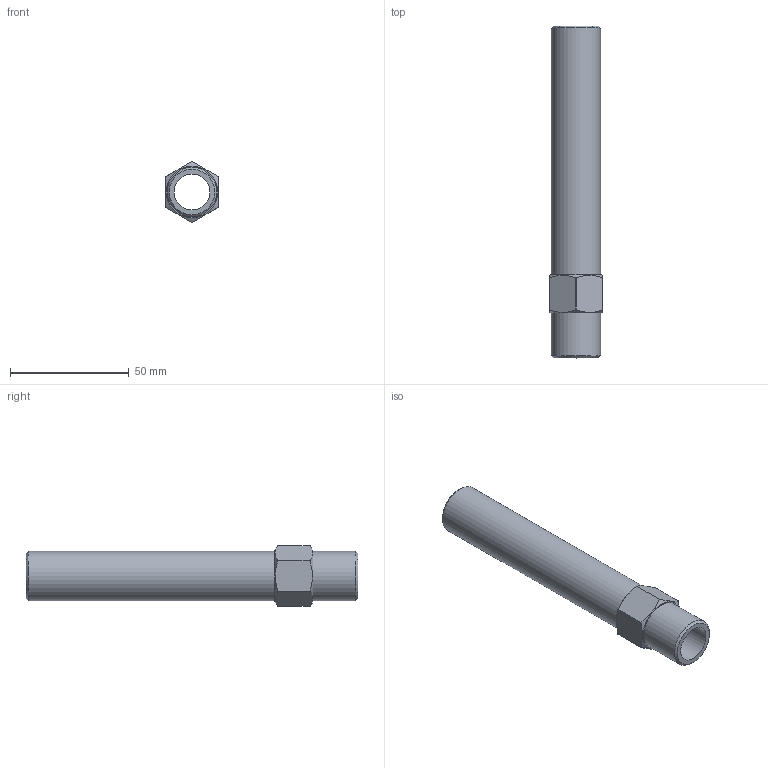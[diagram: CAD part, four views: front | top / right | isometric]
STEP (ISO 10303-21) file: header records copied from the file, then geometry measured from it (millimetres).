
FILE_DESCRIPTION(/* description */ (''),/* implementation_level */ '2;1');
FILE_NAME(/* name */ 'C:/Users/drich/Desktop/APN12-5-1_2 v1.step',/* time_stamp */ '2019-12-27T17:41:44-06:00',/* author */ (''),/* organization */ (''),/* preprocessor_version */ 'ST-DEVELOPER v18',/* originating_system */ 'Autodesk Translation Framework v8.12.0.6',/* authorisation */ '');
FILE_SCHEMA (('AUTOMOTIVE_DESIGN { 1 0 10303 214 3 1 1 }'));
Length unit declared in the file: inch
Products named in the file (1): APN12-5-1_2
Bounding box: 22.23 x 139.7 x 25.65 mm (x, y, z)
Volume: 24029.9 mm3; surface area: 16297.2 mm2
Topology: 1 solids, 1 shells, 23 faces, 59 edges, 40 vertices
Faces by surface type: plane 10, cylinder 9, cone 4
Full cylindrical faces by diameter (mm): 15.037 x1, 20.813 x2
Entity records: 751 total; most frequent: CARTESIAN_POINT 147, DIRECTION 123, ORIENTED_EDGE 118, EDGE_CURVE 59, AXIS2_PLACEMENT_3D 52, VERTEX_POINT 40, CIRCLE 28, EDGE_LOOP 27
